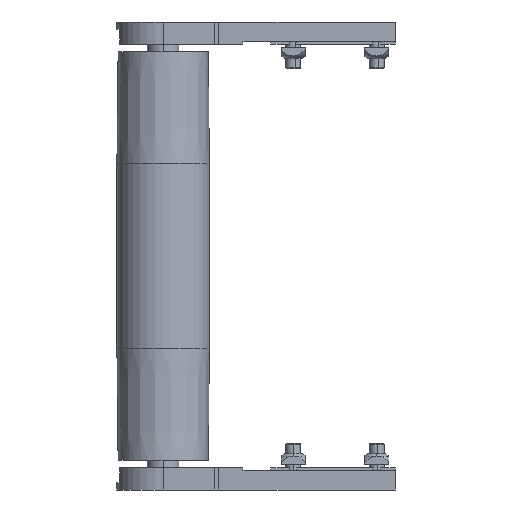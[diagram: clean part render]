
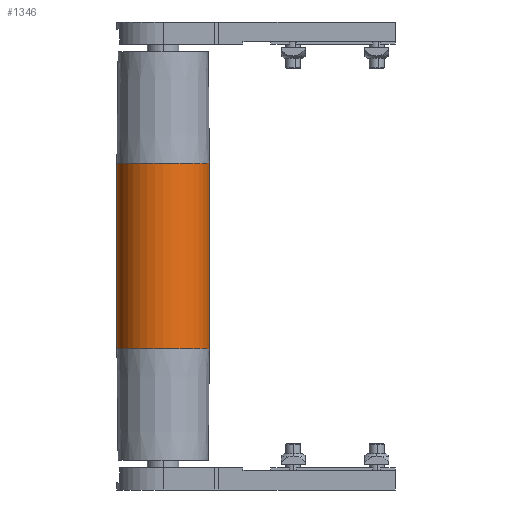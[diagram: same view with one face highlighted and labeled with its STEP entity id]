
A CAD part, front view. The second image highlights one B-rep face of the part: STEP entity #1346.
In plain terms, the highlighted cylindrical face has radius 24.9 mm (diameter 49.8 mm), a partial arc.
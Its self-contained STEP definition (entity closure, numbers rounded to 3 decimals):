
#113 = CARTESIAN_POINT ( 'NONE',  ( 24.9, 0., 110. ) ) ;
#130 = DIRECTION ( 'NONE',  ( 0., 0., 1. ) ) ;
#156 = DIRECTION ( 'NONE',  ( 0., 0., 1. ) ) ;
#186 = CARTESIAN_POINT ( 'NONE',  ( -24.9, 0., 110. ) ) ;
#321 = CARTESIAN_POINT ( 'NONE',  ( 0., 0., 110. ) ) ;
#736 = CIRCLE ( 'NONE', #12571, 24.9 ) ;
#858 = CIRCLE ( 'NONE', #12560, 24.9 ) ;
#1346 = ADVANCED_FACE ( 'NONE', ( #7080 ), #7076, .T. ) ;
#1623 = CARTESIAN_POINT ( 'NONE',  ( 0., 0., -50. ) ) ;
#1624 = DIRECTION ( 'NONE',  ( 0., 0., 1. ) ) ;
#1625 = DIRECTION ( 'NONE',  ( 1., 0., 0. ) ) ;
#1881 = CARTESIAN_POINT ( 'NONE',  ( 0., 0., 50. ) ) ;
#1882 = DIRECTION ( 'NONE',  ( 0., 0., 1. ) ) ;
#1883 = DIRECTION ( 'NONE',  ( 1., 0., 0. ) ) ;
#4367 = ORIENTED_EDGE ( 'NONE', *, *, #5422, .F. ) ;
#4368 = ORIENTED_EDGE ( 'NONE', *, *, #5596, .T. ) ;
#4370 = ORIENTED_EDGE ( 'NONE', *, *, #5432, .T. ) ;
#4372 = ORIENTED_EDGE ( 'NONE', *, *, #5682, .F. ) ;
#4609 = VECTOR ( 'NONE', #156, 1000. ) ;
#4621 = LINE ( 'NONE', #113, #4609 ) ;
#4624 = VECTOR ( 'NONE', #130, 1000. ) ;
#4629 = LINE ( 'NONE', #186, #4624 ) ;
#5422 = EDGE_CURVE ( 'NONE', #8445, #8439, #4629, .T. ) ;
#5432 = EDGE_CURVE ( 'NONE', #8446, #8440, #4621, .T. ) ;
#5596 = EDGE_CURVE ( 'NONE', #8445, #8446, #736, .T. ) ;
#5682 = EDGE_CURVE ( 'NONE', #8439, #8440, #858, .T. ) ;
#7076 = CYLINDRICAL_SURFACE ( 'NONE', #13184, 24.9 ) ;
#7080 = FACE_OUTER_BOUND ( 'NONE', #8252, .T. ) ;
#7496 = CARTESIAN_POINT ( 'NONE',  ( -24.9, 0., 50. ) ) ;
#7497 = CARTESIAN_POINT ( 'NONE',  ( 24.9, 0., 50. ) ) ;
#7498 = CARTESIAN_POINT ( 'NONE',  ( -24.9, 0., -50. ) ) ;
#7499 = CARTESIAN_POINT ( 'NONE',  ( 24.9, 0., -50. ) ) ;
#7643 = DIRECTION ( 'NONE',  ( 1., 0., 0. ) ) ;
#7658 = DIRECTION ( 'NONE',  ( 0., 0., 1. ) ) ;
#8252 = EDGE_LOOP ( 'NONE', ( #4367, #4368, #4370, #4372 ) ) ;
#8439 = VERTEX_POINT ( 'NONE', #7496 ) ;
#8440 = VERTEX_POINT ( 'NONE', #7497 ) ;
#8445 = VERTEX_POINT ( 'NONE', #7498 ) ;
#8446 = VERTEX_POINT ( 'NONE', #7499 ) ;
#12560 = AXIS2_PLACEMENT_3D ( 'NONE', #1881, #1882, #1883 ) ;
#12571 = AXIS2_PLACEMENT_3D ( 'NONE', #1623, #1624, #1625 ) ;
#13184 = AXIS2_PLACEMENT_3D ( 'NONE', #321, #7658, #7643 ) ;
